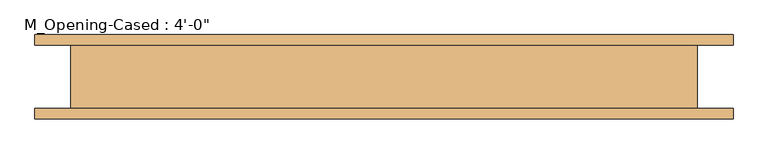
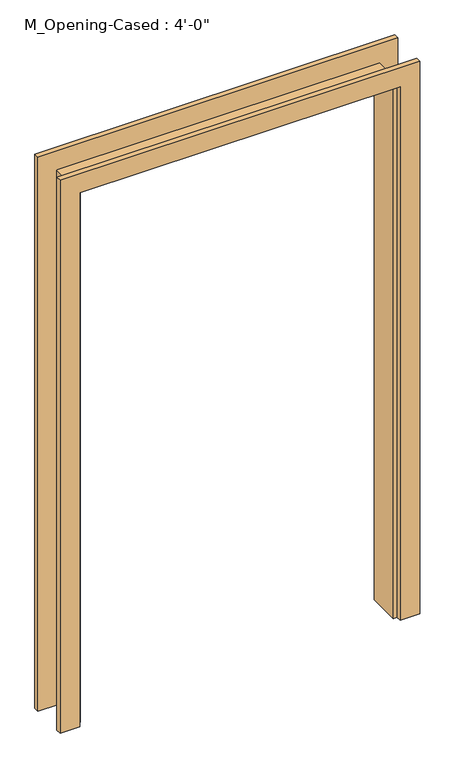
"""IFC4 building model written with IfcOpenShell, lengths in millimetres: door geometry."""

from ifc_helpers import new_model, si_unit, frame, origin, place, context, project, spatial, polyline, outline, extrude, faceted_brep, source, transform, mapped, element, save


def door_9efeaa18(model_context):
    return source(origin(), model_context, "Body", "SolidModel", [
        extrude(outline(polyline([(0.0, -611.4386567), (2127.25, -611.4386567), (2127.25, 595.0613433), (0.0, 595.0613433), (0.0, 670.0613433), (2202.25, 670.0613433), (2202.25, -686.4386567), (0.0, -686.4386567), (0.0, -611.4386567)])), frame((0.0, -81.9125, 0.0), z_axis=(0.0, 1.0, 0.0), x_axis=(0.0, 0.0, 1.0)), (0.0, 0.0, 1.0), 20.0),
        extrude(outline(polyline([(0.0, 670.0613433), (2207.65, 670.0613433), (2207.65, -686.4386567), (0.0, -686.4386567), (0.0, -611.4386567), (2127.25, -611.4386567), (2127.25, 595.0613433), (0.0, 595.0613433), (0.0, 670.0613433)])), frame((0.0, 61.9125, 0.0), z_axis=(0.0, 1.0, 0.0), x_axis=(0.0, 0.0, 1.0)), (0.0, 0.0, 1.0), 20.0),
        faceted_brep([(581.4113433, 61.9125, 0.0), (600.4613433, 61.9125, 0.0), (600.4613433, -61.9125, 0.0), (581.4113433, -61.9125, 0.0), (581.4113433, 61.9125, 2113.6), (600.4613433, 61.9125, 2132.65), (600.4613433, -61.9125, 2132.65), (581.4113433, -61.9125, 2113.6), (-597.7886567, 61.9125, 0.0), (-597.7886567, -61.9125, 0.0), (-616.8386567, -61.9125, 0.0), (-616.8386567, 61.9125, 0.0), (-597.7886567, 61.9125, 2113.6), (-597.7886567, -61.9125, 2113.6), (-616.8386567, -61.9125, 2132.65), (-616.8386567, 61.9125, 2132.65)], [[[0, 1, 2, 3]], [[1, 0, 4, 5]], [[2, 1, 5, 6]], [[3, 2, 6, 7]], [[0, 3, 7, 4]], [[8, 9, 10, 11]], [[12, 13, 9, 8]], [[13, 14, 10, 9]], [[14, 15, 11, 10]], [[15, 12, 8, 11]], [[5, 4, 12, 15]], [[6, 5, 15, 14]], [[7, 6, 14, 13]], [[4, 7, 13, 12]]]),
    ])


if __name__ == "__main__":
    model = new_model("IFC4")
    model_context = context("Model", 3, world=origin())
    ifc_project = project(units=[si_unit("LENGTHUNIT", "METRE", prefix="MILLI")], contexts=[model_context])
    site = spatial("IfcSite", under=ifc_project)
    building = spatial("IfcBuilding", under=site)
    placement = place(None, origin())
    door_shape = door_9efeaa18(model_context)
    element("IfcDoor", 1, ObjectType="M_Opening-Cased : 4'-0\"", at=placement, inside=building, context=model_context, shape_type="MappedRepresentation", body=[
        mapped(door_shape, transform((0.0, 0.0, 0.0), x_axis=(1.0, 0.0, 0.0), y_axis=(0.0, 1.0, 0.0), z_axis=(0.0, 0.0, 1.0))),
    ])
    save(model, "model.ifc")
